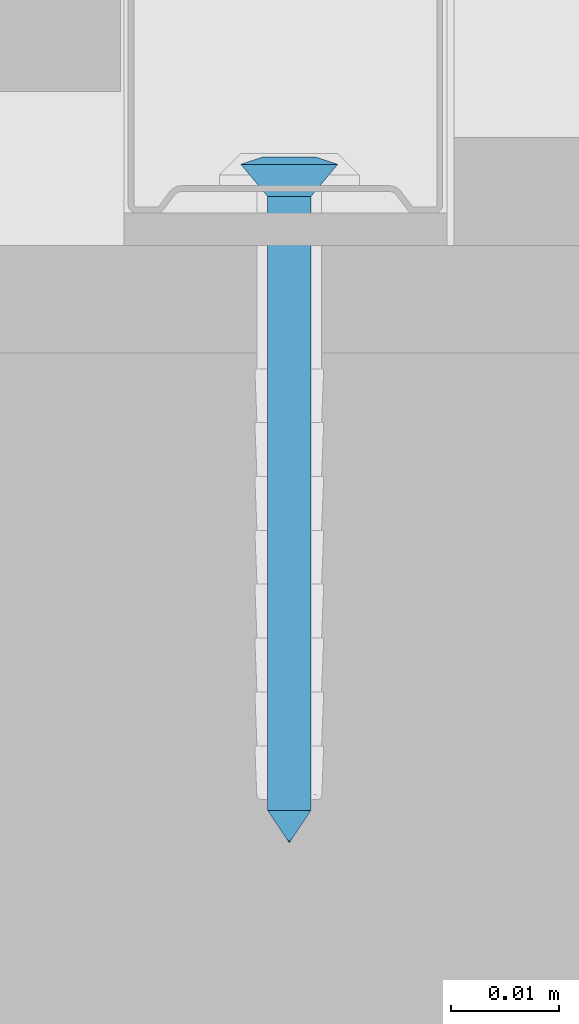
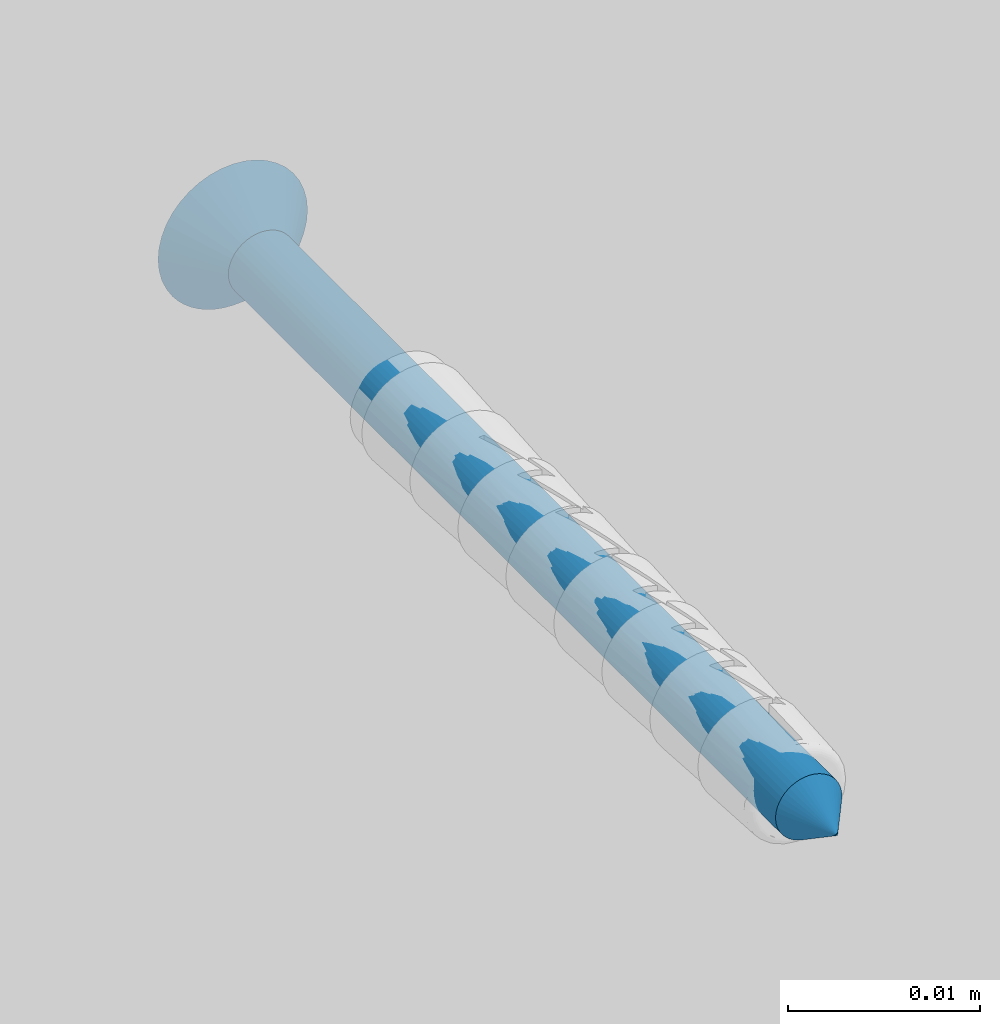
# One storey, part 45 of 62: 1 wall.
"""IFC2X3 building model written with IfcOpenShell, lengths in millimetres."""

import ifcopenshell
import ifcopenshell.guid

model = None  # the IFC model being written
_history = None  # IfcOwnerHistory: only IFC2X3 demands one
_inside = {}  # id of a spatial element -> (the spatial element, [elements in it])
_under = {}  # id of a project, library or spatial element -> (it, [spatial elements below it])
_declared = {}  # id of a project -> (the project, [libraries it declares])
_typed = {}  # id of a type object -> (the type object, [elements of that type])
_made_of = {}  # id of a material, layer set ... -> (it, [elements and type objects made of it])


def new_model(schema):
    """Start an empty IFC model of exactly this schema.

    Asked for "IFC4X3", IfcOpenShell would pick the latest addendum, in which some entities
    have other attributes; the version numbers below select the first issue.
    IFC2X3 requires an IfcOwnerHistory on every rooted entity: one is made here for all.
    """
    global model, _history
    if schema == "IFC4X3":
        model = ifcopenshell.file(schema_version=(4, 3, 0, 0))
    else:
        model = ifcopenshell.file(schema=schema)
    _inside.clear()
    _under.clear()
    _declared.clear()
    _typed.clear()
    _made_of.clear()
    _history = None
    if model.schema == "IFC2X3":
        org = make("IfcOrganization", Name="unknown")
        user = make(
            "IfcPersonAndOrganization",
            ThePerson=make("IfcPerson", FamilyName="unknown"),
            TheOrganization=org,
        )
        app = make(
            "IfcApplication",
            ApplicationDeveloper=org,
            Version="unknown",
            ApplicationFullName="unknown",
            ApplicationIdentifier="unknown",
        )
        _history = make(
            "IfcOwnerHistory",
            OwningUser=user,
            OwningApplication=app,
            ChangeAction="ADDED",
            CreationDate=0,
        )
    return model


def make(cls, **values):
    """One entity of the class cls with the attributes given. An attribute that is None is left unset."""
    return model.create_entity(
        cls, **{name: value for name, value in values.items() if value is not None}
    )


def rooted(cls, **values):
    """An entity with a GlobalId (a new one), such as an element, a storey or a relation."""
    return make(cls, GlobalId=ifcopenshell.guid.new(), OwnerHistory=_history, **values)


def si_unit(unit_type, name, prefix=None):
    """IfcSIUnit, for example si_unit("LENGTHUNIT", "METRE", prefix="MILLI")."""
    return make("IfcSIUnit", UnitType=unit_type, Prefix=prefix, Name=name)


def assignment(units):
    """IfcUnitAssignment: the units of a project."""
    return None if units is None else make("IfcUnitAssignment", Units=units)


def point(xyz):
    """IfcCartesianPoint."""
    return None if xyz is None else make("IfcCartesianPoint", Coordinates=xyz)


def direction(xyz):
    """IfcDirection."""
    return None if xyz is None else make("IfcDirection", DirectionRatios=xyz)


def frame(location, z_axis=None, x_axis=None):
    """IfcAxis2Placement3D, a coordinate frame: its origin and axes. An axis left out is left unset."""
    return make(
        "IfcAxis2Placement3D",
        Location=point(location),
        Axis=direction(z_axis),
        RefDirection=direction(x_axis),
    )


def origin_with_axes():
    """The frame at (0, 0, 0) with the z axis (0, 0, 1) and the x axis (1, 0, 0) written out."""
    return frame((0.0, 0.0, 0.0), z_axis=(0.0, 0.0, 1.0), x_axis=(1.0, 0.0, 0.0))


def place(relative_to, where):
    """IfcLocalPlacement: puts the frame where relative to a parent placement (None: the world)."""
    return make(
        "IfcLocalPlacement", PlacementRelTo=relative_to, RelativePlacement=where
    )


def context(
    kind, dimensions, precision=None, world=None, true_north=None, identifier=None
):
    """IfcGeometricRepresentationContext, for example the 3D "Model" context."""
    return make(
        "IfcGeometricRepresentationContext",
        ContextIdentifier=identifier,
        ContextType=kind,
        CoordinateSpaceDimension=dimensions,
        Precision=precision,
        WorldCoordinateSystem=world,
        TrueNorth=true_north,
    )


def subcontext(parent, identifier, kind, view, scale=None):
    """IfcGeometricRepresentationSubContext, for example "Body" below "Model"."""
    return make(
        "IfcGeometricRepresentationSubContext",
        ContextIdentifier=identifier,
        ContextType=kind,
        ParentContext=parent,
        TargetScale=scale,
        TargetView=view,
    )


def project(units=None, contexts=None):
    """IfcProject with its units and contexts."""
    return rooted(
        "IfcProject",
        Name="project",
        RepresentationContexts=contexts,
        UnitsInContext=assignment(units),
    )


def spatial(cls, under=None, at=None, **own):
    """A site, building, storey or space (cls), placed at a placement, below another one or the project."""
    s = rooted(cls, ObjectPlacement=at, **own)
    if under is not None:
        _under.setdefault(under.id(), (under, []))[1].append(s)
    return s


def faces_of(points, faces, orient=None, outer=None):
    """IfcFace entities. A face is a list of loops; a loop is a list of indices into points, from 0.

    orient and outer hold one flag for each loop. By default every Orientation is true, the
    first loop of a face is its IfcFaceOuterBound and the others are IfcFaceBound.
    """
    made = []
    for i, loops in enumerate(faces):
        bounds = []
        for j, loop in enumerate(loops):
            is_outer = j == 0 if outer is None else outer[i][j]
            bounds.append(
                make(
                    "IfcFaceOuterBound" if is_outer else "IfcFaceBound",
                    Bound=make("IfcPolyLoop", Polygon=[points[k] for k in loop]),
                    Orientation=True if orient is None else orient[i][j],
                )
            )
        made.append(make("IfcFace", Bounds=bounds))
    return made


def faceted_brep(points, faces, orient=None, outer=None, voids=None):
    """IfcFacetedBrep: a solid bounded by flat faces; with voids (closed shells), ...WithVoids."""
    shared = [point(p) for p in points]
    hull = make("IfcClosedShell", CfsFaces=faces_of(shared, faces, orient, outer))
    if voids is None:
        return make("IfcFacetedBrep", Outer=hull)
    return make(
        "IfcFacetedBrepWithVoids",
        Outer=hull,
        Voids=[
            make(cls, CfsFaces=faces_of(shared, fs, o, b)) for cls, fs, o, b in voids
        ],
    )


def shape(context_of_items, identifier, shape_type, items):
    """IfcShapeRepresentation: the items that make up one representation, for example the "Body"."""
    return make(
        "IfcShapeRepresentation",
        ContextOfItems=context_of_items,
        RepresentationIdentifier=identifier,
        RepresentationType=shape_type,
        Items=items,
    )


def material(Name=None, Category=None):
    """IfcMaterial."""
    return make("IfcMaterial", Name=Name, Category=Category)


def made_of(thing, what):
    """Note that an element or type object is made of a material, layer set ...; save() writes the relation."""
    if what is not None:
        _made_of.setdefault(what.id(), (what, []))[1].append(thing)
    return thing


def type_object(cls, material=None, **own):
    """A type object (cls), such as IfcWallType, which elements share."""
    return made_of(rooted(cls, **own), material)


def element(
    cls,
    number,
    at=None,
    inside=None,
    cuts=None,
    type_object=None,
    material=None,
    context=None,
    identifier="Body",
    shape_type=None,
    held_by="IfcProductDefinitionShape",
    body=None,
    shapes=None,
    **own,
):
    """One element of the class cls, such as IfcWall. Its Tag is "e" and its number.

    at: its placement. inside: the storey or other place that contains it. cuts: it is an
    opening in that element (IfcRelVoidsElement). A single representation is given by context,
    identifier, shape_type and body (its items); several are given by shapes. held_by: the class
    of the entity that holds the representations. save() writes the other relations.
    """
    e = rooted(cls, Tag="e%d" % number, ObjectPlacement=at, **own)
    if body is not None:
        shapes = [shape(context, identifier, shape_type, body)]
    if shapes is not None:
        e.Representation = make(held_by, Representations=shapes)
    if inside is not None:
        _inside.setdefault(inside.id(), (inside, []))[1].append(e)
    if cuts is not None:
        rooted(
            "IfcRelVoidsElement", RelatingBuildingElement=cuts, RelatedOpeningElement=e
        )
    if type_object is not None:
        _typed.setdefault(type_object.id(), (type_object, []))[1].append(e)
    return made_of(e, material)


def aggregate(whole, parts):
    """IfcRelAggregates: a whole, such as a stair, and the parts it consists of."""
    return rooted("IfcRelAggregates", RelatingObject=whole, RelatedObjects=parts)


def save(model, path):
    """Write the relations noted so far, then the file.

    IfcRelAggregates (storeys below a building ...), IfcRelContainedInSpatialStructure (elements
    in a storey), IfcRelDefinesByType, IfcRelAssociatesMaterial and IfcRelDeclares: one each for
    every whole, place, type object, material and project.
    """
    for whole, parts in _under.values():
        aggregate(whole, parts)
    for where, things in _inside.values():
        rooted(
            "IfcRelContainedInSpatialStructure",
            RelatedElements=things,
            RelatingStructure=where,
        )
    for kind, things in _typed.values():
        rooted("IfcRelDefinesByType", RelatedObjects=things, RelatingType=kind)
    for what, things in _made_of.values():
        rooted("IfcRelAssociatesMaterial", RelatedObjects=things, RelatingMaterial=what)
    for by, libraries in _declared.values():
        rooted("IfcRelDeclares", RelatingContext=by, RelatedDefinitions=libraries)
    model.write(path)


model = new_model("IFC2X3")

# Units and contexts
model_context = context("Model", 3, world=origin_with_axes())
body_context = subcontext(model_context, "Body", "Model", "MODEL_VIEW")
ifc_project = project(units=[si_unit("LENGTHUNIT", "METRE", prefix="MILLI"), si_unit("AREAUNIT", "SQUARE_METRE"), si_unit("VOLUMEUNIT", "CUBIC_METRE")], contexts=[model_context])

# Site, building, storey
site_placement = place(None, frame((2152.14102611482, -2015.0250894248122, 57.61556563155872), z_axis=(0.0, 0.0, 1.0), x_axis=(-1.1102230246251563e-16, 1.0, 0.0)))
site = spatial("IfcSite", under=ifc_project, at=site_placement, Name="Default Site", CompositionType="ELEMENT")
building_placement = place(site_placement, origin_with_axes())
building = spatial("IfcBuilding", under=site, at=building_placement, Name="Default Building", CompositionType="ELEMENT")
storey_placement = place(building_placement, origin_with_axes())
storey = spatial("IfcBuildingStorey", under=building, at=storey_placement, Name="Default Building Storey", CompositionType="ELEMENT", Elevation=57.61556563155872)

# Wall
ifc_material = material(Name="Default")
wall_type = type_object("IfcWallType", Name="Kołek rozporowy min. fi 6#12", PredefinedType="NOTDEFINED")
wall_placement = place(storey_placement, frame((2133.0250912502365, 522.6571418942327, 3957.209700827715), z_axis=(1.0, -7.610887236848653e-14, -5.637157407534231e-13), x_axis=(-7.61088723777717e-14, -1.0, -1.6471369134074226e-11)))
element("IfcWall", 1, at=wall_placement, inside=storey, type_object=wall_type, material=ifc_material, Name="Kołek rozporowy min. fi 6", context=body_context, shape_type="Brep", body=[
    faceted_brep([(-1438.3141994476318, 3453.2833099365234, -0.46425670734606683), (-1435.8141422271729, 3453.2833099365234, -3.464256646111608), (-1435.7895851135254, 3452.970266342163, -3.464256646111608), (-1438.2587671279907, 3452.579259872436, -0.46425670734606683), (-1435.7162714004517, 3452.6650905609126, -3.464256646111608), (-1438.093900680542, 3451.892614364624, -0.46425670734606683), (-1435.5961084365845, 3452.3751735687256, -3.464256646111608), (-1437.8236532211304, 3451.240301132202, -0.46425670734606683), (-1435.4321956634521, 3452.107667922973, -3.464256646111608), (-1437.4547004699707, 3450.6382942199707, -0.46425670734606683), (-1435.22834777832, 3451.8690109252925, -3.464256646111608), (-1436.9961023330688, 3450.101137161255, -0.46425670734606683), (-1434.9896907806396, 3451.665163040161, -3.464256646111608), (-1436.4591836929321, 3449.642658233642, -0.46425670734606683), (-1434.7221851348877, 3451.501131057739, -3.464256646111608), (-1435.8570575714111, 3449.2735862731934, -0.46425670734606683), (-1434.4321489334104, 3451.381206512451, -3.464256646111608), (-1435.2047443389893, 3449.0034580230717, -0.46425670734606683), (-1434.1269731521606, 3451.307773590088, -3.464256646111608), (-1434.5180988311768, 3448.838710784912, -0.46425670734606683), (-1433.8141679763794, 3451.28321647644, -3.464256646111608), (-1433.8141679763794, 3448.7831592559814, -0.46425670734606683), (-1433.5012435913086, 3451.307773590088, -3.464256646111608), (-1433.110237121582, 3448.838710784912, -0.46425670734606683), (-1433.1960678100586, 3451.381206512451, -3.464256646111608), (-1432.4235916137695, 3449.0034580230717, -0.46425670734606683), (-1432.9061508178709, 3451.501131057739, -3.464256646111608), (-1431.771159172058, 3449.2735862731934, -0.46425670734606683), (-1432.6385259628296, 3451.665163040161, -3.464256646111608), (-1431.1691522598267, 3449.642658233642, -0.46425670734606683), (-1432.3999881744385, 3451.8690109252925, -3.464256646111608), (-1430.6321144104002, 3450.101137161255, -0.46425670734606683), (-1432.1961402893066, 3452.107667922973, -3.464256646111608), (-1430.1735162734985, 3450.6382942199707, -0.46425670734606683), (-1432.0321083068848, 3452.3751735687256, -3.464256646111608), (-1429.8045635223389, 3451.240301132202, -0.46425670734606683), (-1431.9120645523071, 3452.6650905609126, -3.464256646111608), (-1429.5344352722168, 3451.892614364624, -0.46425670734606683), (-1431.8387508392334, 3453.5961151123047, -3.464256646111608), (-1429.369568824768, 3453.9871215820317, -0.46425670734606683), (-1429.314136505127, 3453.2833099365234, -0.46425670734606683), (-1431.814193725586, 3453.2833099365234, -3.464256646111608), (-1429.369568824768, 3452.579259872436, -0.46425670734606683), (-1431.8387508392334, 3452.970266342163, -3.464256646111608), (-1431.9120645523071, 3453.9012908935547, -3.464256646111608), (-1429.5344352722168, 3454.6737670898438, -0.46425670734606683), (-1432.0321083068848, 3454.191207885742, -3.464256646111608), (-1429.8045635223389, 3455.3260803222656, -0.46425670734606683), (-1432.1961402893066, 3454.458713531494, -3.464256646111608), (-1430.1735162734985, 3455.9283256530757, -0.46425670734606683), (-1432.3999881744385, 3454.6973705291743, -3.464256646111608), (-1430.6321144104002, 3456.465244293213, -0.46425670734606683), (-1432.6385259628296, 3454.9012184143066, -3.464256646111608), (-1431.1691522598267, 3456.923723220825, -0.46425670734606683), (-1432.9061508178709, 3455.065250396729, -3.464256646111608), (-1431.771159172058, 3457.2927951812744, -0.46425670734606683), (-1433.1960678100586, 3455.1854133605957, -3.464256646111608), (-1432.4235916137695, 3457.562923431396, -0.46425670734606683), (-1433.5012435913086, 3455.25860786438, -3.464256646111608), (-1433.110237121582, 3457.7279090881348, -0.46425670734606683), (-1433.8141679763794, 3455.283164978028, -3.464256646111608), (-1433.8141679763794, 3457.7832221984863, -0.46425670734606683), (-1434.3430995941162, 3457.7519893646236, -0.46425670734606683), (-1434.1269731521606, 3455.25860786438, -3.464256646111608), (-1434.4321489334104, 3455.1854133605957, -3.464256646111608), (-1434.8646402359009, 3457.6590061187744, -0.46425670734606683), (-1435.3716373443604, 3457.504987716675, -0.46425670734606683), (-1434.7221851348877, 3455.065250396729, -3.464256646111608), (-1435.8570575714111, 3457.2927951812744, -0.46425670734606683), (-1434.9896907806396, 3454.9012184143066, -3.464256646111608), (-1435.22834777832, 3454.6973705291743, -3.464256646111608), (-1436.3142251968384, 3457.024812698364, -0.46425670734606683), (-1436.7367029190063, 3456.705093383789, -0.46425670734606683), (-1437.118649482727, 3456.337928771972, -0.46425670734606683), (-1437.4547004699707, 3455.9283256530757, -0.46425670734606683), (-1435.4321956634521, 3454.458713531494, -3.464256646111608), (-1435.5961084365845, 3454.191207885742, -3.464256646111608), (-1437.8236532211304, 3455.3260803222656, -0.46425670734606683), (-1435.7162714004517, 3453.9012908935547, -3.464256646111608), (-1438.093900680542, 3454.6737670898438, -0.46425670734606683), (-1435.7895851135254, 3453.5961151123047, -3.464256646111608), (-1438.2587671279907, 3453.9871215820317, -0.46425670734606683), (-1434.2052936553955, 3455.752372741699, 0.20073754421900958), (-1433.8141679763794, 3455.7831287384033, 0.20073754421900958), (-1434.5866441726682, 3455.6608200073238, 0.20073754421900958), (-1434.9491596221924, 3455.510854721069, 0.20073754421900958), (-1435.2836608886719, 3455.305814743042, 0.20073754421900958), (-1435.581922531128, 3455.0509452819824, 0.20073754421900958), (-1435.836672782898, 3454.7526836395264, 0.20073754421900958), (-1436.0417127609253, 3454.418182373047, 0.20073754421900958), (-1436.1917972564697, 3454.0557861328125, 0.20073754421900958), (-1436.2833499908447, 3453.6743164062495, 0.20073754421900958), (-1436.3141059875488, 3453.2833099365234, 0.20073754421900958), (-1436.2833499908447, 3452.8920650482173, 0.20073754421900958), (-1436.1917972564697, 3452.5105953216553, 0.20073754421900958), (-1436.0417127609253, 3452.148199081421, 0.20073754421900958), (-1435.836672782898, 3451.8136978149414, 0.20073754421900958), (-1435.581922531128, 3451.5154361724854, 0.20073754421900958), (-1435.2836608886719, 3451.260566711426, 0.20073754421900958), (-1434.9491596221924, 3451.0557651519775, 0.20073754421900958), (-1434.5866441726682, 3450.905561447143, 0.20073754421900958), (-1433.4230422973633, 3450.8140087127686, 0.20073754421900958), (-1433.8141679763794, 3450.7832527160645, 0.20073754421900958), (-1434.2052936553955, 3450.8140087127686, 0.20073754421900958), (-1433.0415725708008, 3450.905561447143, 0.20073754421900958), (-1432.6791763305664, 3451.0557651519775, 0.20073754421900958), (-1432.344675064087, 3451.260566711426, 0.20073754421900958), (-1432.0464134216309, 3451.5154361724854, 0.20073754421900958), (-1431.7916631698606, 3451.8136978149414, 0.20073754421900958), (-1431.5866231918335, 3452.148199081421, 0.20073754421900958), (-1431.436538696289, 3452.5105953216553, 0.20073754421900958), (-1431.344985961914, 3452.8920650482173, 0.20073754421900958), (-1431.3141107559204, 3453.2833099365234, 0.20073754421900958), (-1431.344985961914, 3453.6743164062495, 0.20073754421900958), (-1431.436538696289, 3454.0557861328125, 0.20073754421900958), (-1431.5866231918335, 3454.418182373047, 0.20073754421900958), (-1431.7916631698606, 3454.7526836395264, 0.20073754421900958), (-1432.0464134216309, 3455.0509452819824, 0.20073754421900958), (-1432.344675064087, 3455.305814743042, 0.20073754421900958), (-1432.6791763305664, 3455.510854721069, 0.20073754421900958), (-1433.0415725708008, 3455.6608200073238, 0.20073754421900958), (-1433.4230422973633, 3455.752372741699, 0.20073754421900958), (-1433.8141679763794, 3453.2833099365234, -63.46425414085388), (-1435.7895851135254, 3452.970266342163, -60.464255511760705), (-1435.8141422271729, 3453.2833099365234, -60.464255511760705), (-1435.7162714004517, 3452.6650905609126, -60.464255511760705), (-1435.5961084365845, 3452.3751735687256, -60.464255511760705), (-1435.4321956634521, 3452.107667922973, -60.464255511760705), (-1435.22834777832, 3451.8690109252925, -60.464255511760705), (-1434.9896907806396, 3451.665163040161, -60.464255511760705), (-1434.7221851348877, 3451.501131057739, -60.464255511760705), (-1434.4321489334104, 3451.381206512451, -60.464255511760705), (-1434.1269731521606, 3451.307773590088, -60.464255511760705), (-1433.8141679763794, 3451.28321647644, -60.464255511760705), (-1433.5012435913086, 3451.307773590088, -60.464255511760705), (-1433.1960678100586, 3451.381206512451, -60.464255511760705), (-1432.9061508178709, 3451.501131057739, -60.464255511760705), (-1432.6385259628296, 3451.665163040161, -60.464255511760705), (-1432.3999881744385, 3451.8690109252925, -60.464255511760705), (-1432.1961402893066, 3452.107667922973, -60.464255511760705), (-1432.0321083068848, 3452.3751735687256, -60.464255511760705), (-1431.9120645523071, 3452.6650905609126, -60.464255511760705), (-1431.8387508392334, 3452.970266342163, -60.464255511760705), (-1431.814193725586, 3453.2833099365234, -60.464255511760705), (-1431.8387508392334, 3453.5961151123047, -60.464255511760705), (-1431.9120645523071, 3453.9012908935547, -60.464255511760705), (-1432.0321083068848, 3454.191207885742, -60.464255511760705), (-1432.1961402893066, 3454.458713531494, -60.464255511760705), (-1432.3999881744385, 3454.6973705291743, -60.464255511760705), (-1432.6385259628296, 3454.9012184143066, -60.464255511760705), (-1432.9061508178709, 3455.065250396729, -60.464255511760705), (-1433.1960678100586, 3455.1854133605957, -60.464255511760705), (-1433.5012435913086, 3455.25860786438, -60.464255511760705), (-1433.8141679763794, 3455.283164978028, -60.464255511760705), (-1434.1269731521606, 3455.25860786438, -60.464255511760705), (-1434.4321489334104, 3455.1854133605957, -60.464255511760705), (-1434.7221851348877, 3455.065250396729, -60.464255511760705), (-1434.9896907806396, 3454.9012184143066, -60.464255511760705), (-1435.22834777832, 3454.6973705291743, -60.464255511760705), (-1435.4321956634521, 3454.458713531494, -60.464255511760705), (-1435.5961084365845, 3454.191207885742, -60.464255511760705), (-1435.7162714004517, 3453.9012908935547, -60.464255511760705), (-1435.7895851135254, 3453.5961151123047, -60.464255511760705), (-1436.0417127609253, 3454.418182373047, 0.049999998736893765), (-1436.1917972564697, 3454.0557861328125, 0.049999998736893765), (-1436.2833499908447, 3453.6743164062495, 0.049999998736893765), (-1436.3141059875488, 3453.2833099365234, 0.049999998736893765), (-1436.2833499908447, 3452.8920650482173, 0.049999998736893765), (-1436.1917972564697, 3452.5105953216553, 0.049999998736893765), (-1436.0417127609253, 3452.148199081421, 0.049999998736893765), (-1435.836672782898, 3451.8136978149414, 0.049999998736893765), (-1435.581922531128, 3451.5154361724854, 0.049999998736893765), (-1435.2836608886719, 3451.260566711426, 0.049999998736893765), (-1434.9491596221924, 3451.0557651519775, 0.049999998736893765), (-1434.5866441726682, 3450.905561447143, 0.049999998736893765), (-1434.2052936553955, 3450.8140087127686, 0.049999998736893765), (-1433.8141679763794, 3450.7832527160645, 0.049999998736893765), (-1433.4230422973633, 3450.8140087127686, 0.049999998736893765), (-1433.0415725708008, 3450.905561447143, 0.049999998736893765), (-1432.6791763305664, 3451.0557651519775, 0.049999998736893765), (-1432.344675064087, 3451.260566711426, 0.049999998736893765), (-1432.0464134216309, 3451.5154361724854, 0.049999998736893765), (-1431.7916631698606, 3451.8136978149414, 0.049999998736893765), (-1431.5866231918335, 3452.148199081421, 0.049999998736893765), (-1431.436538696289, 3452.5105953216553, 0.049999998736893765), (-1431.344985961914, 3452.8920650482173, 0.049999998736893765), (-1431.3141107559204, 3453.2833099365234, 0.049999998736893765), (-1431.344985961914, 3453.6743164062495, 0.049999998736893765), (-1431.436538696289, 3454.0557861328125, 0.049999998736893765), (-1431.5866231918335, 3454.418182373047, 0.049999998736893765), (-1431.7916631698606, 3454.7526836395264, 0.049999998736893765), (-1432.0464134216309, 3455.0509452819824, 0.049999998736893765), (-1432.344675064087, 3455.305814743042, 0.049999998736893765), (-1432.6791763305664, 3455.510854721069, 0.049999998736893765), (-1433.0415725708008, 3455.6608200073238, 0.049999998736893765), (-1433.4230422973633, 3455.752372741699, 0.049999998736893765), (-1433.8141679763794, 3455.7831287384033, 0.049999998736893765), (-1434.2052936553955, 3455.752372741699, 0.049999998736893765), (-1434.5866441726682, 3455.6608200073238, 0.049999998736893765), (-1434.9491596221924, 3455.510854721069, 0.049999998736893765), (-1435.2836608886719, 3455.305814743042, 0.049999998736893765), (-1435.581922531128, 3455.0509452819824, 0.049999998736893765), (-1435.836672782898, 3454.7526836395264, 0.049999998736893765), (-1434.3141317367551, 3452.7831077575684, 0.049999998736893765), (-1435.8141422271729, 3452.7831077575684, 0.049999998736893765), (-1435.8141422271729, 3453.7832736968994, 0.049999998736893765), (-1434.3141317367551, 3453.7832736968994, 0.049999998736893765), (-1434.3141317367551, 3455.283164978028, 0.049999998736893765), (-1433.3142042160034, 3455.283164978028, 0.049999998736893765), (-1433.3142042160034, 3453.7832736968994, 0.049999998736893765), (-1431.814193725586, 3453.7832736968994, 0.049999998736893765), (-1431.814193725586, 3452.7831077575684, 0.049999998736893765), (-1433.3142042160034, 3452.7831077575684, 0.049999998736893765), (-1433.3142042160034, 3451.28321647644, 0.049999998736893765), (-1434.3141317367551, 3451.28321647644, 0.049999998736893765), (-1434.3141317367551, 3452.7831077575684, -1.799262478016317), (-1434.3141317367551, 3451.28321647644, -1.799262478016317), (-1433.3142042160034, 3451.28321647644, -1.799262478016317), (-1433.3142042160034, 3452.7831077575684, -1.799262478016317), (-1431.814193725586, 3452.7831077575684, -1.799262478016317), (-1431.814193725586, 3453.7832736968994, -1.799262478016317), (-1433.3142042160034, 3453.7832736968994, -1.799262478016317), (-1433.3142042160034, 3455.283164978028, -1.799262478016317), (-1434.3141317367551, 3455.283164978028, -1.799262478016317), (-1434.3141317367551, 3453.7832736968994, -1.799262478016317), (-1435.8141422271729, 3453.7832736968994, -1.799262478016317), (-1435.8141422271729, 3452.7831077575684, -1.799262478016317)], [[[0, 1, 2, 3]], [[4, 5, 3, 2]], [[6, 7, 5, 4]], [[7, 6, 8, 9]], [[10, 11, 9, 8]], [[11, 10, 12, 13]], [[14, 15, 13, 12]], [[16, 17, 15, 14]], [[17, 16, 18, 19]], [[20, 21, 19, 18]], [[21, 20, 22, 23]], [[24, 25, 23, 22]], [[26, 27, 25, 24]], [[27, 26, 28, 29]], [[30, 31, 29, 28]], [[31, 30, 32, 33]], [[34, 35, 33, 32]], [[36, 37, 35, 34]], [[38, 39, 40, 41]], [[41, 40, 42, 43]], [[37, 36, 43, 42]], [[44, 45, 39, 38]], [[46, 47, 45, 44]], [[47, 46, 48, 49]], [[50, 51, 49, 48]], [[51, 50, 52, 53]], [[54, 55, 53, 52]], [[56, 57, 55, 54]], [[57, 56, 58, 59]], [[60, 61, 59, 58]], [[62, 61, 63]], [[61, 60, 63]], [[63, 64, 62]], [[64, 65, 62]], [[66, 65, 64]], [[64, 67, 66]], [[67, 68, 66]], [[69, 70, 71]], [[70, 72, 71]], [[71, 68, 69]], [[68, 67, 69]], [[70, 73, 72]], [[74, 73, 75]], [[73, 70, 75]], [[76, 77, 74, 75]], [[78, 79, 77, 76]], [[79, 78, 80, 81]], [[1, 0, 81, 80]], [[82, 83, 62]], [[83, 61, 62]], [[62, 65, 82]], [[65, 84, 82]], [[66, 68, 84]], [[68, 85, 84]], [[84, 65, 66]], [[86, 85, 71]], [[85, 68, 71]], [[72, 73, 87]], [[87, 86, 72]], [[86, 71, 72]], [[88, 87, 74]], [[87, 73, 74]], [[77, 89, 88, 74]], [[79, 90, 89, 77]], [[90, 79, 81, 91]], [[0, 92, 91, 81]], [[92, 0, 3, 93]], [[5, 94, 93, 3]], [[7, 95, 94, 5]], [[95, 7, 9, 96]], [[11, 97, 96, 9]], [[97, 11, 13, 98]], [[15, 99, 98, 13]], [[17, 100, 99, 15]], [[23, 101, 102, 21]], [[21, 102, 103, 19]], [[100, 17, 19, 103]], [[25, 104, 101, 23]], [[27, 105, 104, 25]], [[105, 27, 29, 106]], [[31, 107, 106, 29]], [[107, 31, 33, 108]], [[35, 109, 108, 33]], [[37, 110, 109, 35]], [[110, 37, 42, 111]], [[40, 112, 111, 42]], [[112, 40, 39, 113]], [[45, 114, 113, 39]], [[47, 115, 114, 45]], [[115, 47, 49, 116]], [[51, 117, 116, 49]], [[117, 51, 53, 118]], [[55, 119, 118, 53]], [[57, 120, 119, 55]], [[120, 57, 59, 121]], [[61, 83, 121, 59]], [[122, 123, 124]], [[122, 125, 123]], [[122, 126, 125]], [[127, 126, 122]], [[122, 128, 127]], [[129, 128, 122]], [[122, 130, 129]], [[122, 131, 130]], [[132, 131, 122]], [[122, 133, 132]], [[134, 133, 122]], [[122, 135, 134]], [[122, 136, 135]], [[137, 136, 122]], [[122, 138, 137]], [[139, 138, 122]], [[122, 140, 139]], [[122, 141, 140]], [[142, 141, 122]], [[122, 143, 142]], [[144, 143, 122]], [[122, 145, 144]], [[122, 146, 145]], [[147, 146, 122]], [[122, 148, 147]], [[149, 148, 122]], [[122, 150, 149]], [[122, 151, 150]], [[152, 151, 122]], [[122, 153, 152]], [[154, 153, 122]], [[122, 155, 154]], [[122, 156, 155]], [[157, 156, 122]], [[122, 158, 157]], [[159, 158, 122]], [[122, 160, 159]], [[122, 161, 160]], [[162, 161, 122]], [[124, 162, 122]], [[1, 124, 123, 2]], [[125, 4, 2, 123]], [[126, 6, 4, 125]], [[6, 126, 127, 8]], [[128, 10, 8, 127]], [[10, 128, 129, 12]], [[130, 14, 12, 129]], [[131, 16, 14, 130]], [[16, 131, 132, 18]], [[133, 20, 18, 132]], [[20, 133, 134, 22]], [[135, 24, 22, 134]], [[136, 26, 24, 135]], [[26, 136, 137, 28]], [[138, 30, 28, 137]], [[30, 138, 139, 32]], [[140, 34, 32, 139]], [[141, 36, 34, 140]], [[144, 38, 41, 143]], [[143, 41, 43, 142]], [[36, 141, 142, 43]], [[145, 44, 38, 144]], [[146, 46, 44, 145]], [[46, 146, 147, 48]], [[148, 50, 48, 147]], [[50, 148, 149, 52]], [[150, 54, 52, 149]], [[151, 56, 54, 150]], [[56, 151, 152, 58]], [[153, 60, 58, 152]], [[60, 153, 154, 63]], [[155, 64, 63, 154]], [[156, 67, 64, 155]], [[67, 156, 157, 69]], [[158, 70, 69, 157]], [[70, 158, 159, 75]], [[160, 76, 75, 159]], [[161, 78, 76, 160]], [[78, 161, 162, 80]], [[124, 1, 80, 162]], [[163, 164, 165, 166, 167, 168, 169, 170, 171, 172, 173, 174, 175, 176, 177, 178, 179, 180, 181, 182, 183, 184, 185, 186, 187, 188, 189, 190, 191, 192, 193, 194, 195, 196, 197, 198, 199, 200, 201, 202], [203, 204, 205, 206, 207, 208, 209, 210, 211, 212, 213, 214]], [[187, 186, 112, 113]], [[113, 114, 188, 187]], [[114, 115, 189, 188]], [[190, 189, 115, 116]], [[116, 117, 191, 190]], [[192, 191, 117, 118]], [[118, 119, 193, 192]], [[119, 120, 194, 193]], [[195, 194, 120, 121]], [[121, 83, 196, 195]], [[197, 196, 83, 82]], [[82, 84, 198, 197]], [[84, 85, 199, 198]], [[200, 199, 85, 86]], [[86, 87, 201, 200]], [[202, 201, 87, 88]], [[88, 89, 163, 202]], [[89, 90, 164, 163]], [[92, 93, 167, 166]], [[91, 92, 166, 165]], [[165, 164, 90, 91]], [[93, 94, 168, 167]], [[94, 95, 169, 168]], [[170, 169, 95, 96]], [[96, 97, 171, 170]], [[172, 171, 97, 98]], [[98, 99, 173, 172]], [[99, 100, 174, 173]], [[175, 174, 100, 103]], [[103, 102, 176, 175]], [[177, 176, 102, 101]], [[101, 104, 178, 177]], [[104, 105, 179, 178]], [[180, 179, 105, 106]], [[106, 107, 181, 180]], [[182, 181, 107, 108]], [[108, 109, 183, 182]], [[109, 110, 184, 183]], [[185, 184, 110, 111]], [[111, 112, 186, 185]], [[215, 216, 217, 218, 219, 220, 221, 222, 223, 224, 225, 226]], [[216, 214, 213, 217]], [[215, 203, 214, 216]], [[226, 204, 203, 215]], [[225, 205, 204, 226]], [[224, 206, 205, 225]], [[223, 207, 206, 224]], [[222, 208, 207, 223]], [[221, 209, 208, 222]], [[220, 210, 209, 221]], [[219, 211, 210, 220]], [[218, 212, 211, 219]], [[217, 213, 212, 218]]]),
])

save(model, "model.ifc")
